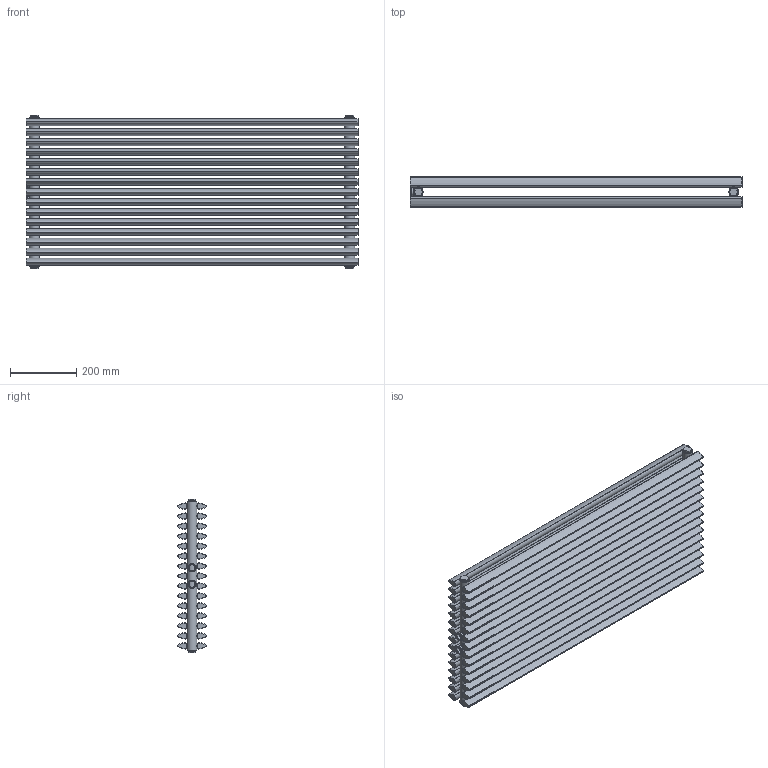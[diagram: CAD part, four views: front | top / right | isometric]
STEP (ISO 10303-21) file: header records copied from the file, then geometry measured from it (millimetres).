
FILE_DESCRIPTION(/* description */ (''),/* implementation_level */ '2;1');
FILE_NAME(/* name */ 'C:\Grzejniki\13DLUXRAD\pokojowe\AURORA\AURORA PODWÓJNA1000x450.iam.stp',/* time_stamp */ '2016-06-28T17:31:36+02:00',/* author */ ('m.szydziak'),/* organization */ (''),/* preprocessor_version */ 'ST-DEVELOPER v16.5',/* originating_system */ 'Autodesk Inventor 2017',/* authorisation */ '');
FILE_SCHEMA (('AUTOMOTIVE_DESIGN { 1 0 10303 214 3 1 1 }'));
Length unit declared in the file: millimetre
Products named in the file (6): AURORA PODWÓJNA1000x450; fi30x1,5x450; ZDC dzwonki; dzwonek G0,5inch; 30x20x1,2x1000; korek
Assembly tree (39 placements, depth 3):
  AURORA PODWÓJNA1000x450
    fi30x1,5x450  x2
    ZDC dzwonki
      dzwonek G0,5inch  x2
    30x20x1,2x1000  x30
    korek  x4
Bounding box: 1000 x 89.98 x 462 mm (x, y, z)
Volume: 2886923.6 mm3; surface area: 4757669 mm2
Topology: 38 solids, 38 shells, 608 faces, 1576 edges, 1112 vertices
Faces by surface type: cylinder 412, plane 192, cone 2, bspline 2
Full cylindrical faces by diameter (mm): 5 x30, 6 x60, 16 x2, 18.5 x2, 18.631 x6, 22.9 x2, 24 x4, 25.3 x2, 27 x2, 30 x2
Entity records: 3458 total; most frequent: CARTESIAN_POINT 1551, DIRECTION 360, ORIENTED_EDGE 280, AXIS2_PLACEMENT_3D 163, EDGE_CURVE 140, EDGE_LOOP 135, VERTEX_POINT 117, FACE_BOUND 70
